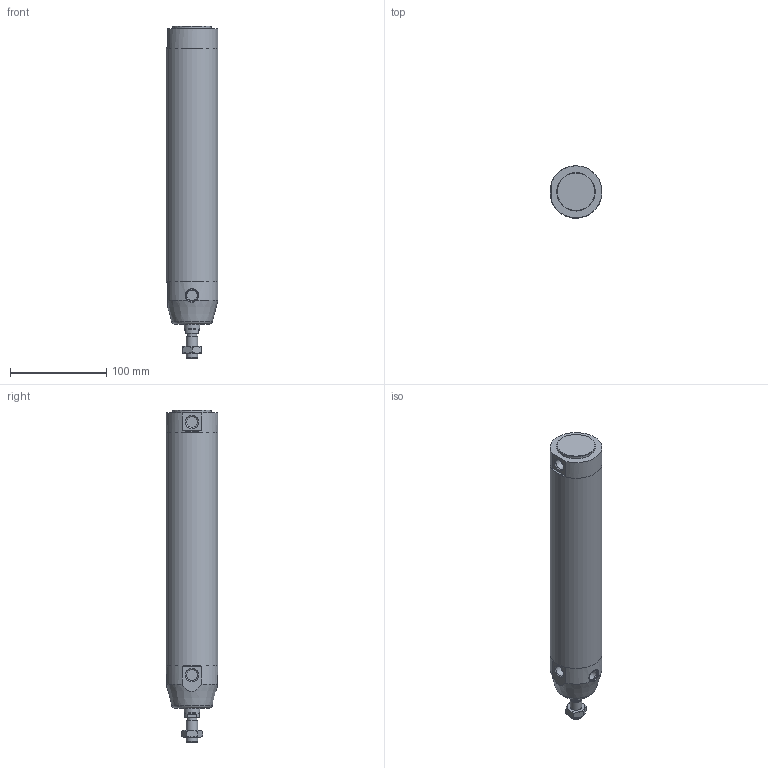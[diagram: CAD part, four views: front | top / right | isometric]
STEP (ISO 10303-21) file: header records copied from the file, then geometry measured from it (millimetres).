
FILE_DESCRIPTION(/* description */ (''),/* implementation_level */ '2;1');
FILE_NAME(/* name */ 'I:\Area Tecnica\Documenti\A-Manieri\_Inventor\12X\12X#E_###_####_#_#\12XAE_050_0200_#_#.stp',/* time_stamp */ '2015-05-08T13:40:34+02:00',/* author */ ('maniean1'),/* organization */ ('Pneumax S.p.A.'),/* preprocessor_version */ 'ST-DEVELOPER v15.2',/* originating_system */ 'Autodesk Inventor 2014',/* authorisation */ '');
FILE_SCHEMA (('AUTOMOTIVE_DESIGN { 1 0 10303 214 3 1 1 }'));
Length unit declared in the file: millimetre
Products named in the file (6): C1250_619-0200; 12X50_622; S12X50_0200; 12X_50_11; 12X50_611; 12XAE_050_0200_#_#
Bounding box: 54 x 54 x 345 mm (x, y, z)
Volume: 344256.8 mm3; surface area: 126981.9 mm2
Topology: 5 solids, 5 shells, 65 faces, 132 edges, 84 vertices
Faces by surface type: plane 33, cylinder 18, cone 13, torus 1
Full cylindrical faces by diameter (mm): 10.2 x1, 10.9 x2, 11.4 x2, 12 x2, 14 x1, 14.1 x2, 15.6 x1, 16 x1, 40 x1, 50 x2, 54 x3
Entity records: 1691 total; most frequent: CARTESIAN_POINT 368, DIRECTION 279, ORIENTED_EDGE 190, AXIS2_PLACEMENT_3D 129, EDGE_LOOP 108, EDGE_CURVE 95, VERTEX_POINT 77, ADVANCED_FACE 65
